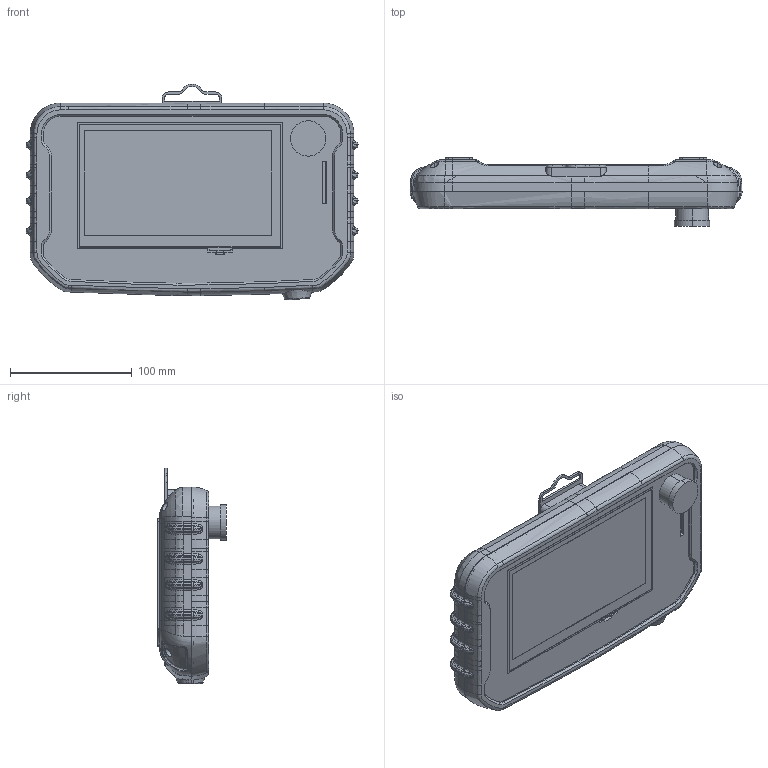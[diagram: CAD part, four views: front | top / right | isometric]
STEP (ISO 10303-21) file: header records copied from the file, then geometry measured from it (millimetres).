
FILE_DESCRIPTION (( 'STEP AP214' ), '1' );
FILE_NAME ('TP107-3D.2019.5.20.STEP', '2019-05-20T03:18:57', ( 'xt256.com' ), ( 'xt256.com' ), 'SwSTEP 2.0', 'SolidWorks 2016', '' );
FILE_SCHEMA (( 'AUTOMOTIVE_DESIGN' ));
Length unit declared in the file: millimetre
Products named in the file (1): TP107-3D.2019.5.20
Bounding box: 272.39 x 56.26 x 177.15 mm (x, y, z)
Surface area: 426691.4 mm2 (no closed solid volume)
Topology: 0 solids, 32 shells, 3225 faces, 8804 edges, 5734 vertices
Faces by surface type: plane 1576, bspline 1137, cylinder 494, cone 10, torus 8
Entity records: 216829 total; most frequent: CARTESIAN_POINT 146771, ORIENTED_EDGE 17572, DIRECTION 9260, EDGE_CURVE 8796, VERTEX_POINT 5734, LINE 4144, VECTOR 4144, B_SPLINE_CURVE_WITH_KNOTS 4053
